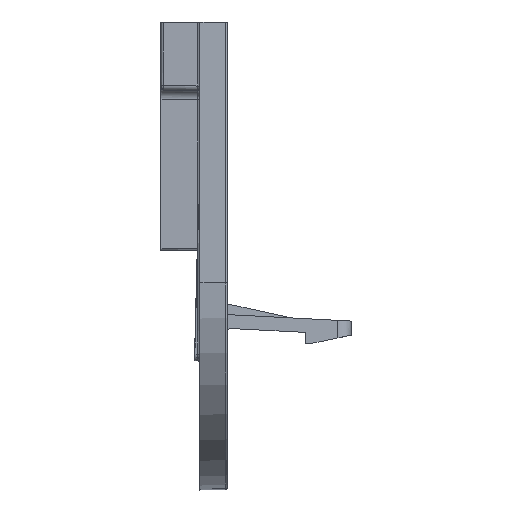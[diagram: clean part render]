
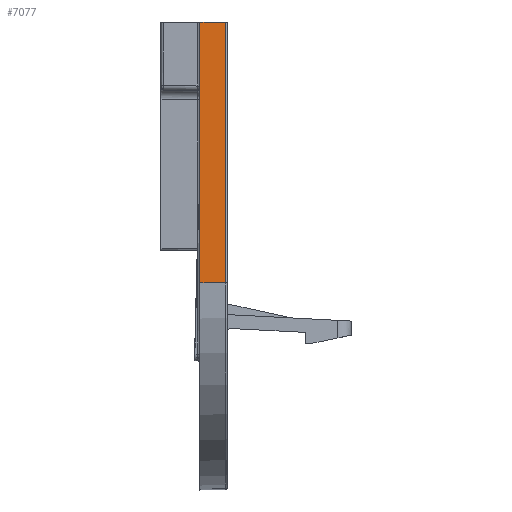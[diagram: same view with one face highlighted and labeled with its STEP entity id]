
A CAD part, front view. The second image highlights one B-rep face of the part: STEP entity #7077.
In plain terms, the highlighted planar face has unit normal (0.018, -1, 0).
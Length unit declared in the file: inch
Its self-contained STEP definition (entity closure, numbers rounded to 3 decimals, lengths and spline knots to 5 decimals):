
#447 = DIRECTION ( 'NONE',  ( 0., 0., 1. ) ) ;
#499 = LINE ( 'NONE', #6991, #9105 ) ;
#863 = ORIENTED_EDGE ( 'NONE', *, *, #6778, .T. ) ;
#1143 = ORIENTED_EDGE ( 'NONE', *, *, #5785, .F. ) ;
#1284 = DIRECTION ( 'NONE',  ( 0.017, -1., 0. ) ) ;
#1548 = EDGE_CURVE ( 'NONE', #5800, #4120, #2518, .T. ) ;
#1731 = DIRECTION ( 'NONE',  ( 0., 0., -1. ) ) ;
#2085 = VECTOR ( 'NONE', #7469, 39.37008 ) ;
#2401 = AXIS2_PLACEMENT_3D ( 'NONE', #5767, #1284, #6347 ) ;
#2518 = LINE ( 'NONE', #3843, #2085 ) ;
#2639 = DIRECTION ( 'NONE',  ( -1., -0.017, 0. ) ) ;
#3021 = LINE ( 'NONE', #8248, #5140 ) ;
#3427 = VERTEX_POINT ( 'NONE', #5841 ) ;
#3537 = FACE_OUTER_BOUND ( 'NONE', #3806, .T. ) ;
#3806 = EDGE_LOOP ( 'NONE', ( #1143, #863, #3850, #6396 ) ) ;
#3843 = CARTESIAN_POINT ( 'NONE',  ( 5.50415, -3.2684, 0.00029 ) ) ;
#3850 = ORIENTED_EDGE ( 'NONE', *, *, #1548, .F. ) ;
#4120 = VERTEX_POINT ( 'NONE', #6280 ) ;
#4274 = VECTOR ( 'NONE', #2639, 39.37008 ) ;
#5140 = VECTOR ( 'NONE', #1731, 39.37008 ) ;
#5767 = CARTESIAN_POINT ( 'NONE',  ( 5.54331, -3.26772, 2.2442 ) ) ;
#5785 = EDGE_CURVE ( 'NONE', #3427, #9255, #9034, .T. ) ;
#5800 = VERTEX_POINT ( 'NONE', #6215 ) ;
#5841 = CARTESIAN_POINT ( 'NONE',  ( 5.76405, -3.26386, -2.2442 ) ) ;
#6215 = CARTESIAN_POINT ( 'NONE',  ( 5.54331, -3.26772, -0.00039 ) ) ;
#6280 = CARTESIAN_POINT ( 'NONE',  ( 5.76405, -3.26386, -0.00425 ) ) ;
#6347 = DIRECTION ( 'NONE',  ( 0., 0., -1. ) ) ;
#6396 = ORIENTED_EDGE ( 'NONE', *, *, #6903, .T. ) ;
#6778 = EDGE_CURVE ( 'NONE', #3427, #4120, #499, .T. ) ;
#6903 = EDGE_CURVE ( 'NONE', #5800, #9255, #3021, .T. ) ;
#6991 = CARTESIAN_POINT ( 'NONE',  ( 5.76405, -3.26386, -0.00452 ) ) ;
#7077 = ADVANCED_FACE ( 'NONE', ( #3537 ), #9388, .T. ) ;
#7469 = DIRECTION ( 'NONE',  ( 1., 0.017, -0.017 ) ) ;
#7640 = CARTESIAN_POINT ( 'NONE',  ( 5.54331, -3.26772, -2.2442 ) ) ;
#8207 = CARTESIAN_POINT ( 'NONE',  ( 5.54331, -3.26772, -2.2442 ) ) ;
#8248 = CARTESIAN_POINT ( 'NONE',  ( 5.54331, -3.26772, 2.2442 ) ) ;
#9034 = LINE ( 'NONE', #7640, #4274 ) ;
#9105 = VECTOR ( 'NONE', #447, 39.37008 ) ;
#9255 = VERTEX_POINT ( 'NONE', #8207 ) ;
#9388 = PLANE ( 'NONE',  #2401 ) ;
